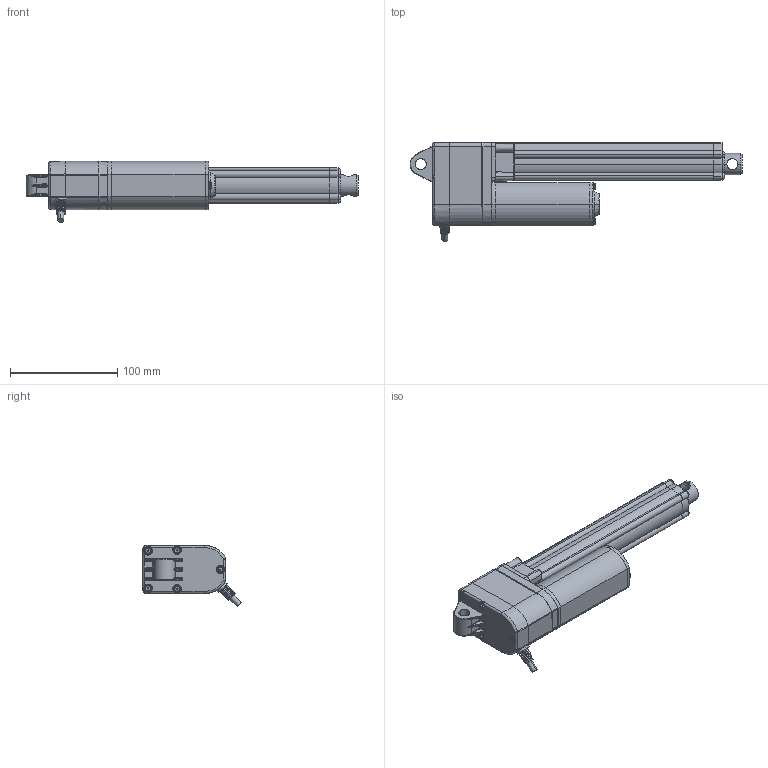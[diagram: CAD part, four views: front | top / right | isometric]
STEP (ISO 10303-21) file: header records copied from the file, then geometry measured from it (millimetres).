
FILE_DESCRIPTION(('STEP AP214'),'1');
FILE_NAME('dj809a2150290a2f021r02111112a01231030070113.stp','2023-10-30T07:01:25',('TraceParts'),('TraceParts S.A.'),'Spatial InterOp 3D',' ',' ');
FILE_SCHEMA(('AUTOMOTIVE_DESIGN { 1 0 10303 214 1 1 1 1 }'));
Length unit declared in the file: millimetre
Products named in the file (1): dj809a2150290a2f021r02111112a01231030070113
Bounding box: 309.11 x 92.14 x 56.99 mm (x, y, z)
Volume: 548252.2 mm3; surface area: 67211.6 mm2
Topology: 1 solids, 1 shells, 760 faces, 1997 edges, 1242 vertices
Faces by surface type: plane 305, cylinder 202, bspline 127, torus 76, cone 47, sphere 3
Entity records: 35887 total; most frequent: CARTESIAN_POINT 12100, ORIENTED_EDGE 3956, DIRECTION 3460, EDGE_CURVE 1978, AXIS2_PLACEMENT_3D 1315, VERTEX_POINT 1242, LINE 830, VECTOR 830
